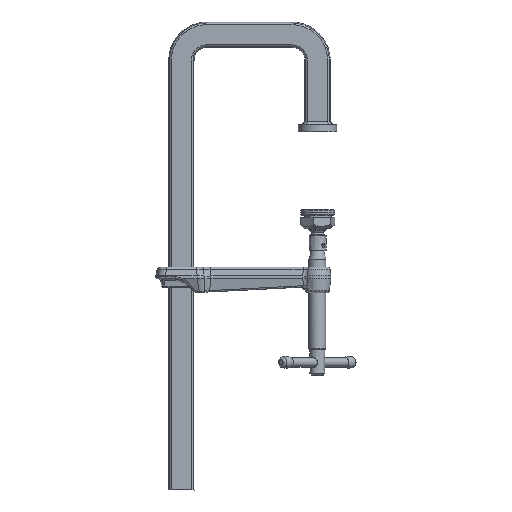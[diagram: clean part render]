
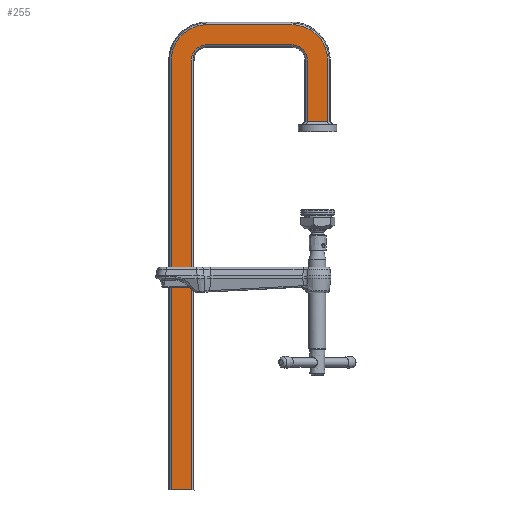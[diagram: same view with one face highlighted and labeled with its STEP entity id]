
A CAD part, front view. The second image highlights one B-rep face of the part: STEP entity #255.
In plain terms, the highlighted free-form (B-spline) face has degree [1, 1] with [2, 2] control points.
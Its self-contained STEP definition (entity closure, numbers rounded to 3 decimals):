
#53=CARTESIAN_POINT('',(11.828,-130.,7.5));
#54=VERTEX_POINT('',#53);
#60=CARTESIAN_POINT('',(-11.828,-130.,7.5));
#61=VERTEX_POINT('',#60);
#62=CARTESIAN_POINT('',(11.828,-130.,7.5));
#63=CARTESIAN_POINT('',(-11.828,-130.,7.5));
#64=B_SPLINE_CURVE_WITH_KNOTS('',1,(#62,#63),.POLYLINE_FORM.,.F.,.U.,(2,2),(0.15,0.85),.UNSPECIFIED.);
#65=EDGE_CURVE('',#54,#61,#64,.T.);
#157=CARTESIAN_POINT('',(11.828,375.,7.5));
#158=VERTEX_POINT('',#157);
#159=CARTESIAN_POINT('',(11.828,-130.,7.5));
#160=CARTESIAN_POINT('',(11.828,375.,7.5));
#161=B_SPLINE_CURVE_WITH_KNOTS('',1,(#159,#160),.POLYLINE_FORM.,.F.,.U.,(2,2),(0.104,1.),.UNSPECIFIED.);
#162=EDGE_CURVE('',#54,#158,#161,.T.);
#172=CARTESIAN_POINT('',(-17.337,-188.748,7.5));
#173=CARTESIAN_POINT('',(-17.337,429.333,7.5));
#174=CARTESIAN_POINT('',(177.337,-188.748,7.5));
#175=CARTESIAN_POINT('',(177.337,429.333,7.5));
#176=B_SPLINE_SURFACE_WITH_KNOTS('',1,1,((#172,#173),(#174,#175)),.PLANE_SURF.,.F.,.F.,.U.,(2,2),(2,2),(0.,1.),(-0.399,1.),.UNSPECIFIED.);
#177=CARTESIAN_POINT('',(30.,393.172,7.5));
#178=VERTEX_POINT('',#177);
#179=CARTESIAN_POINT('',(130.,393.172,7.5));
#180=VERTEX_POINT('',#179);
#181=CARTESIAN_POINT('',(30.,393.172,7.5));
#182=CARTESIAN_POINT('',(130.,393.172,7.5));
#183=B_SPLINE_CURVE_WITH_KNOTS('',1,(#181,#182),.POLYLINE_FORM.,.F.,.U.,(2,2),(0.045,0.955),.UNSPECIFIED.);
#184=EDGE_CURVE('',#178,#180,#183,.T.);
#185=ORIENTED_EDGE('',*,*,#184,.T.);
#186=CARTESIAN_POINT('',(148.172,375.,7.5));
#187=VERTEX_POINT('',#186);
#188=CARTESIAN_POINT('',(130.,393.172,7.5));
#189=CARTESIAN_POINT('',(148.172,393.172,7.5));
#190=CARTESIAN_POINT('',(148.172,375.,7.5));
#191=(BOUNDED_CURVE()B_SPLINE_CURVE(2,(#188,#189,#190),.CIRCULAR_ARC.,.F.,.U.)B_SPLINE_CURVE_WITH_KNOTS((3,3),(0.,1.),.UNSPECIFIED.)CURVE()GEOMETRIC_REPRESENTATION_ITEM()RATIONAL_B_SPLINE_CURVE((1.,0.707,1.))REPRESENTATION_ITEM(''));
#192=EDGE_CURVE('',#180,#187,#191,.T.);
#193=ORIENTED_EDGE('',*,*,#192,.T.);
#194=CARTESIAN_POINT('',(148.172,303.,7.5));
#195=VERTEX_POINT('',#194);
#196=CARTESIAN_POINT('',(148.172,375.,7.5));
#197=CARTESIAN_POINT('',(148.172,303.,7.5));
#198=B_SPLINE_CURVE_WITH_KNOTS('',1,(#196,#197),.POLYLINE_FORM.,.F.,.U.,(2,2),(0.045,0.907),.UNSPECIFIED.);
#199=EDGE_CURVE('',#187,#195,#198,.T.);
#200=ORIENTED_EDGE('',*,*,#199,.T.);
#201=CARTESIAN_POINT('',(171.828,303.,7.5));
#202=VERTEX_POINT('',#201);
#203=CARTESIAN_POINT('',(148.172,303.,7.5));
#204=CARTESIAN_POINT('',(171.828,303.,7.5));
#205=B_SPLINE_CURVE_WITH_KNOTS('',1,(#203,#204),.POLYLINE_FORM.,.F.,.U.,(2,2),(0.763,0.872),.UNSPECIFIED.);
#206=EDGE_CURVE('',#195,#202,#205,.T.);
#207=ORIENTED_EDGE('',*,*,#206,.T.);
#208=CARTESIAN_POINT('',(171.828,375.,7.5));
#209=VERTEX_POINT('',#208);
#210=CARTESIAN_POINT('',(171.828,375.,7.5));
#211=CARTESIAN_POINT('',(171.828,303.,7.5));
#212=B_SPLINE_CURVE_WITH_KNOTS('',1,(#210,#211),.POLYLINE_FORM.,.F.,.U.,(2,2),(0.045,0.907),.UNSPECIFIED.);
#213=EDGE_CURVE('',#209,#202,#212,.T.);
#214=ORIENTED_EDGE('',*,*,#213,.F.);
#215=CARTESIAN_POINT('',(130.,416.828,7.5));
#216=VERTEX_POINT('',#215);
#217=CARTESIAN_POINT('',(130.,416.828,7.5));
#218=CARTESIAN_POINT('',(171.828,416.828,7.5));
#219=CARTESIAN_POINT('',(171.828,375.,7.5));
#220=(BOUNDED_CURVE()B_SPLINE_CURVE(2,(#217,#218,#219),.CIRCULAR_ARC.,.F.,.U.)B_SPLINE_CURVE_WITH_KNOTS((3,3),(0.,1.),.UNSPECIFIED.)CURVE()GEOMETRIC_REPRESENTATION_ITEM()RATIONAL_B_SPLINE_CURVE((1.,0.707,1.))REPRESENTATION_ITEM(''));
#221=EDGE_CURVE('',#216,#209,#220,.T.);
#222=ORIENTED_EDGE('',*,*,#221,.F.);
#223=CARTESIAN_POINT('',(30.,416.828,7.5));
#224=VERTEX_POINT('',#223);
#225=CARTESIAN_POINT('',(30.,416.828,7.5));
#226=CARTESIAN_POINT('',(130.,416.828,7.5));
#227=B_SPLINE_CURVE_WITH_KNOTS('',1,(#225,#226),.POLYLINE_FORM.,.F.,.U.,(2,2),(0.045,0.955),.UNSPECIFIED.);
#228=EDGE_CURVE('',#224,#216,#227,.T.);
#229=ORIENTED_EDGE('',*,*,#228,.F.);
#230=CARTESIAN_POINT('',(-11.828,375.,7.5));
#231=VERTEX_POINT('',#230);
#232=CARTESIAN_POINT('',(-11.828,375.,7.5));
#233=CARTESIAN_POINT('',(-11.828,416.828,7.5));
#234=CARTESIAN_POINT('',(30.,416.828,7.5));
#235=(BOUNDED_CURVE()B_SPLINE_CURVE(2,(#232,#233,#234),.CIRCULAR_ARC.,.F.,.U.)B_SPLINE_CURVE_WITH_KNOTS((3,3),(0.,1.),.UNSPECIFIED.)CURVE()GEOMETRIC_REPRESENTATION_ITEM()RATIONAL_B_SPLINE_CURVE((1.,0.707,1.))REPRESENTATION_ITEM(''));
#236=EDGE_CURVE('',#231,#224,#235,.T.);
#237=ORIENTED_EDGE('',*,*,#236,.F.);
#238=CARTESIAN_POINT('',(-11.828,-130.,7.5));
#239=CARTESIAN_POINT('',(-11.828,375.,7.5));
#240=B_SPLINE_CURVE_WITH_KNOTS('',1,(#238,#239),.POLYLINE_FORM.,.F.,.U.,(2,2),(0.104,1.),.UNSPECIFIED.);
#241=EDGE_CURVE('',#61,#231,#240,.T.);
#242=ORIENTED_EDGE('',*,*,#241,.F.);
#243=ORIENTED_EDGE('',*,*,#65,.F.);
#244=ORIENTED_EDGE('',*,*,#162,.T.);
#245=CARTESIAN_POINT('',(11.828,375.,7.5));
#246=CARTESIAN_POINT('',(11.828,382.527,7.5));
#247=CARTESIAN_POINT('',(17.15,387.85,7.5));
#248=CARTESIAN_POINT('',(22.473,393.172,7.5));
#249=CARTESIAN_POINT('',(30.,393.172,7.5));
#250=(BOUNDED_CURVE()B_SPLINE_CURVE(2,(#245,#246,#247,#248,#249),.CIRCULAR_ARC.,.F.,.U.)B_SPLINE_CURVE_WITH_KNOTS((3,2,3),(0.,0.5,1.),.UNSPECIFIED.)CURVE()GEOMETRIC_REPRESENTATION_ITEM()RATIONAL_B_SPLINE_CURVE((1.,0.924,1.,0.924,1.))REPRESENTATION_ITEM(''));
#251=EDGE_CURVE('',#158,#178,#250,.T.);
#252=ORIENTED_EDGE('',*,*,#251,.T.);
#253=EDGE_LOOP('',(#185,#193,#200,#207,#214,#222,#229,#237,#242,#243,#244,#252));
#254=FACE_OUTER_BOUND('',#253,.T.);
#255=ADVANCED_FACE('',(#254),#176,.T.);
